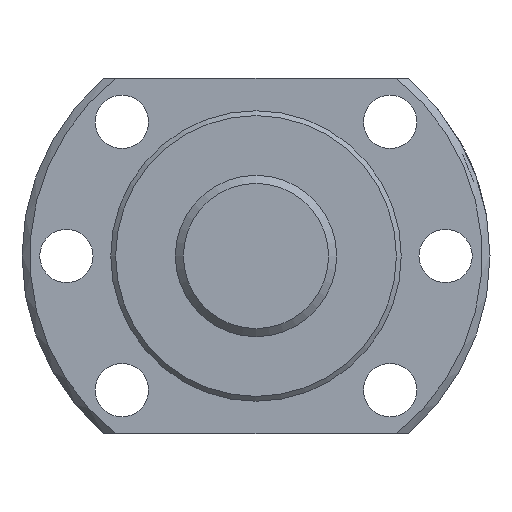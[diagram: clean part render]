
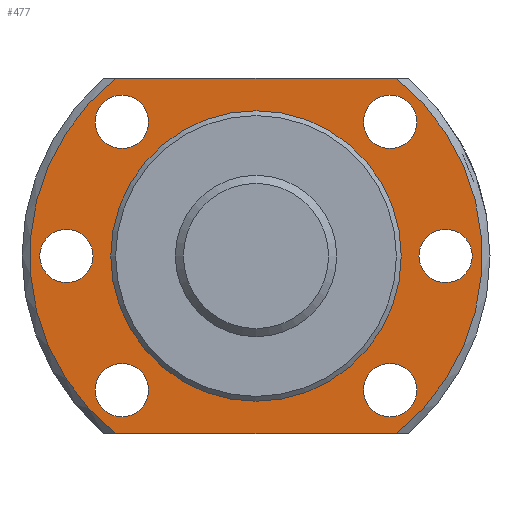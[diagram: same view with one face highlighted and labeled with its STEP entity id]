
A CAD part, left-side view. The second image highlights one B-rep face of the part: STEP entity #477.
In plain terms, the highlighted planar face has unit normal (-1, 0, 0).
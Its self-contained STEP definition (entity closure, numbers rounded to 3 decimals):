
#34=PLANE('',#557);
#61=CIRCLE('',#527,28.033);
#79=CIRCLE('',#556,28.033);
#80=CIRCLE('',#558,18.);
#81=CIRCLE('',#559,3.3);
#82=CIRCLE('',#560,3.3);
#83=CIRCLE('',#561,3.3);
#84=CIRCLE('',#562,3.3);
#85=CIRCLE('',#563,3.3);
#86=CIRCLE('',#564,3.3);
#144=ORIENTED_EDGE('',*,*,#237,.T.);
#145=ORIENTED_EDGE('',*,*,#238,.T.);
#146=ORIENTED_EDGE('',*,*,#239,.F.);
#147=ORIENTED_EDGE('',*,*,#235,.F.);
#148=ORIENTED_EDGE('',*,*,#240,.F.);
#149=ORIENTED_EDGE('',*,*,#208,.F.);
#150=ORIENTED_EDGE('',*,*,#241,.T.);
#151=ORIENTED_EDGE('',*,*,#242,.T.);
#152=ORIENTED_EDGE('',*,*,#243,.T.);
#153=ORIENTED_EDGE('',*,*,#244,.T.);
#154=ORIENTED_EDGE('',*,*,#245,.T.);
#208=EDGE_CURVE('',#259,#260,#61,.T.);
#235=EDGE_CURVE('',#282,#283,#79,.T.);
#237=EDGE_CURVE('',#284,#284,#80,.T.);
#238=EDGE_CURVE('',#285,#285,#81,.F.);
#239=EDGE_CURVE('',#283,#259,#303,.T.);
#240=EDGE_CURVE('',#260,#282,#304,.T.);
#241=EDGE_CURVE('',#286,#286,#82,.T.);
#242=EDGE_CURVE('',#287,#287,#83,.T.);
#243=EDGE_CURVE('',#288,#288,#84,.T.);
#244=EDGE_CURVE('',#289,#289,#85,.T.);
#245=EDGE_CURVE('',#290,#290,#86,.T.);
#259=VERTEX_POINT('',#777);
#260=VERTEX_POINT('',#779);
#282=VERTEX_POINT('',#860);
#283=VERTEX_POINT('',#862);
#284=VERTEX_POINT('',#869);
#285=VERTEX_POINT('',#871);
#286=VERTEX_POINT('',#875);
#287=VERTEX_POINT('',#877);
#288=VERTEX_POINT('',#879);
#289=VERTEX_POINT('',#881);
#290=VERTEX_POINT('',#883);
#303=LINE('',#872,#311);
#304=LINE('',#873,#312);
#311=VECTOR('',#676,1000.);
#312=VECTOR('',#677,1000.);
#343=EDGE_LOOP('',(#144));
#344=EDGE_LOOP('',(#145));
#345=EDGE_LOOP('',(#146,#147,#148,#149));
#346=EDGE_LOOP('',(#150));
#347=EDGE_LOOP('',(#151));
#348=EDGE_LOOP('',(#152));
#349=EDGE_LOOP('',(#153));
#350=EDGE_LOOP('',(#154));
#411=FACE_BOUND('',#343,.T.);
#412=FACE_BOUND('',#344,.T.);
#413=FACE_BOUND('',#345,.T.);
#414=FACE_BOUND('',#346,.T.);
#415=FACE_BOUND('',#347,.T.);
#416=FACE_BOUND('',#348,.T.);
#417=FACE_BOUND('',#349,.T.);
#418=FACE_BOUND('',#350,.T.);
#477=ADVANCED_FACE('',(#411,#412,#413,#414,#415,#416,#417,#418),#34,.T.);
#527=AXIS2_PLACEMENT_3D('',#778,#606,#607);
#556=AXIS2_PLACEMENT_3D('',#861,#668,#669);
#557=AXIS2_PLACEMENT_3D('',#867,#670,#671);
#558=AXIS2_PLACEMENT_3D('',#868,#672,#673);
#559=AXIS2_PLACEMENT_3D('',#870,#674,#675);
#560=AXIS2_PLACEMENT_3D('',#874,#678,#679);
#561=AXIS2_PLACEMENT_3D('',#876,#680,#681);
#562=AXIS2_PLACEMENT_3D('',#878,#682,#683);
#563=AXIS2_PLACEMENT_3D('',#880,#684,#685);
#564=AXIS2_PLACEMENT_3D('',#882,#686,#687);
#606=DIRECTION('',(1.,0.,0.));
#607=DIRECTION('',(0.,0.,-1.));
#668=DIRECTION('',(1.,0.,0.));
#669=DIRECTION('',(0.,0.,-1.));
#670=DIRECTION('',(-1.,0.,0.));
#671=DIRECTION('',(0.,0.,1.));
#672=DIRECTION('',(1.,0.,0.));
#673=DIRECTION('',(0.,0.,-1.));
#674=DIRECTION('',(-1.,0.,0.));
#675=DIRECTION('',(0.,0.,1.));
#676=DIRECTION('',(0.,-1.,0.));
#677=DIRECTION('',(0.,1.,0.));
#678=DIRECTION('',(1.,0.,0.));
#679=DIRECTION('',(0.,0.,-1.));
#680=DIRECTION('',(1.,0.,0.));
#681=DIRECTION('',(0.,0.,-1.));
#682=DIRECTION('',(1.,0.,0.));
#683=DIRECTION('',(0.,0.,-1.));
#684=DIRECTION('',(1.,0.,0.));
#685=DIRECTION('',(0.,0.,-1.));
#686=DIRECTION('',(1.,0.,0.));
#687=DIRECTION('',(0.,0.,-1.));
#777=CARTESIAN_POINT('',(5.,-17.374,22.));
#778=CARTESIAN_POINT('',(5.,0.,0.));
#779=CARTESIAN_POINT('',(5.,-17.374,-22.));
#860=CARTESIAN_POINT('',(5.,17.374,-22.));
#861=CARTESIAN_POINT('',(5.,0.,0.));
#862=CARTESIAN_POINT('',(5.,17.374,22.));
#867=CARTESIAN_POINT('',(5.,28.033,0.));
#868=CARTESIAN_POINT('',(5.,0.,0.));
#869=CARTESIAN_POINT('',(5.,0.,-18.));
#870=CARTESIAN_POINT('',(5.,23.5,0.));
#871=CARTESIAN_POINT('',(5.,23.5,3.3));
#872=CARTESIAN_POINT('',(5.,28.033,22.));
#873=CARTESIAN_POINT('',(5.,28.033,-22.));
#874=CARTESIAN_POINT('',(5.,-16.617,-16.617));
#875=CARTESIAN_POINT('',(5.,-16.617,-19.917));
#876=CARTESIAN_POINT('',(5.,16.617,16.617));
#877=CARTESIAN_POINT('',(5.,16.617,13.317));
#878=CARTESIAN_POINT('',(5.,-16.617,16.617));
#879=CARTESIAN_POINT('',(5.,-16.617,13.317));
#880=CARTESIAN_POINT('',(5.,16.617,-16.617));
#881=CARTESIAN_POINT('',(5.,16.617,-19.917));
#882=CARTESIAN_POINT('',(5.,-23.5,0.));
#883=CARTESIAN_POINT('',(5.,-23.5,-3.3));
